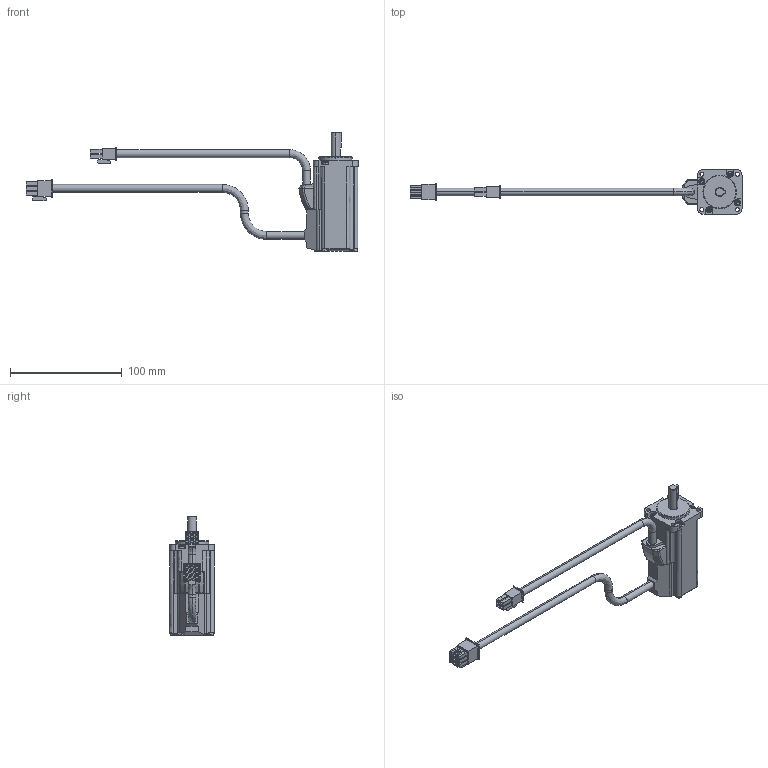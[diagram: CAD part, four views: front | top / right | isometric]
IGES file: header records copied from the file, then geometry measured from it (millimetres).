
Start section:  PTC IGES file: 10001020_rsmz-a5bq-bh_no_brake.igs
Global section: file name: 10001020_rsmz-a5bq-bh_no_brake.igs; native system: Pro/ENGINEER by Parametric Technology Corporation; preprocessor: 2004440; author: Administrator; organization: Unknown; date: 070829.200957; units: millimetre
Bounding box: 297.7 x 40 x 107.1 mm (x, y, z)
Volume: 145668.5 mm3; surface area: 32805.8 mm2
Topology: 1 solids, 1 shells, 466 faces, 1177 edges, 762 vertices
Faces by surface type: bspline 336, revolution 130
